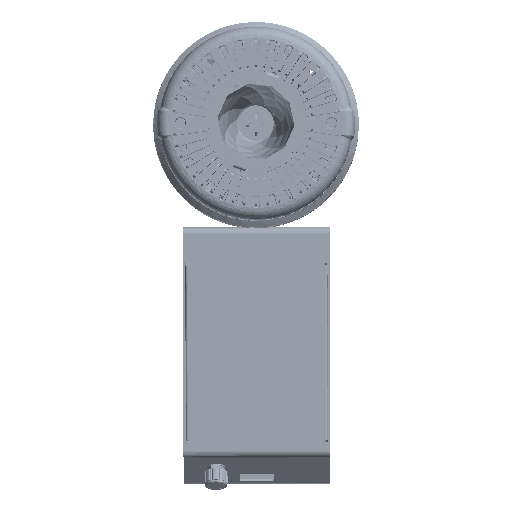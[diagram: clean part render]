
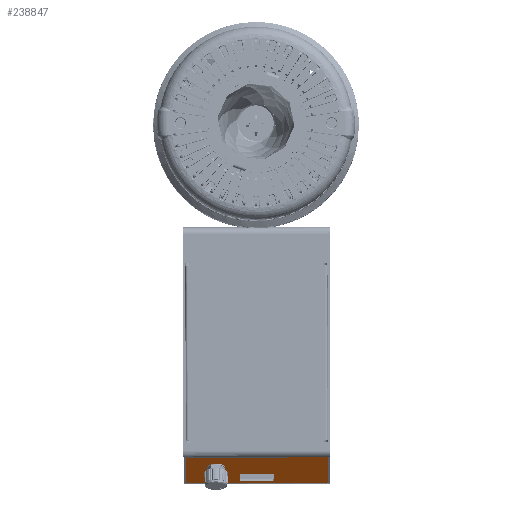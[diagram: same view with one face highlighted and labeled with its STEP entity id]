
A CAD part, front view. The second image highlights one B-rep face of the part: STEP entity #238847.
In plain terms, the highlighted planar face has unit normal (0.003, -0.364, -0.931) as drawn and (-0.94, -0.342, 0) by its records, which use the part's own axes.
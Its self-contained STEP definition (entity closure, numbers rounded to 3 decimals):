
#6362 = CIRCLE ( 'NONE', #24450, 1. ) ;
#8252 = ORIENTED_EDGE ( 'NONE', *, *, #117947, .T. ) ;
#8649 = VECTOR ( 'NONE', #57159, 1000. ) ;
#8776 = LINE ( 'NONE', #205303, #8649 ) ;
#11433 = VERTEX_POINT ( 'NONE', #267965 ) ;
#12683 = DIRECTION ( 'NONE',  ( 0.342, -0.94, 0. ) ) ;
#14753 = LINE ( 'NONE', #144438, #71570 ) ;
#14990 = CARTESIAN_POINT ( 'NONE',  ( -79.616, 38.053, 9.95 ) ) ;
#24145 = ORIENTED_EDGE ( 'NONE', *, *, #39913, .F. ) ;
#24450 = AXIS2_PLACEMENT_3D ( 'NONE', #147611, #235755, #194464 ) ;
#27126 = EDGE_CURVE ( 'NONE', #190738, #78263, #235698, .T. ) ;
#28341 = CARTESIAN_POINT ( 'NONE',  ( -79.274, 37.113, -10.95 ) ) ;
#34299 = DIRECTION ( 'NONE',  ( 0.342, -0.94, 0. ) ) ;
#35858 = EDGE_LOOP ( 'NONE', ( #254361, #112596 ) ) ;
#37367 = CARTESIAN_POINT ( 'NONE',  ( -80.487, 40.448, -46. ) ) ;
#39175 = DIRECTION ( 'NONE',  ( -0.342, 0.94, 0. ) ) ;
#39913 = EDGE_CURVE ( 'NONE', #180090, #78263, #112755, .T. ) ;
#40811 = CIRCLE ( 'NONE', #168132, 1. ) ;
#41181 = CARTESIAN_POINT ( 'NONE',  ( -72.365, 18.131, 26.5 ) ) ;
#43650 = VERTEX_POINT ( 'NONE', #46117 ) ;
#43677 = CARTESIAN_POINT ( 'NONE',  ( -79.616, 38.053, -10.95 ) ) ;
#46117 = CARTESIAN_POINT ( 'NONE',  ( -75.375, 26.401, 10.95 ) ) ;
#49353 = ORIENTED_EDGE ( 'NONE', *, *, #61721, .F. ) ;
#50835 = CARTESIAN_POINT ( 'NONE',  ( -79.616, 38.053, -9.95 ) ) ;
#51443 = CARTESIAN_POINT ( 'NONE',  ( -65.209, -1.528, 46. ) ) ;
#53944 = CARTESIAN_POINT ( 'NONE',  ( -70.997, 14.373, 26.5 ) ) ;
#57159 = DIRECTION ( 'NONE',  ( -0.342, 0.94, 0. ) ) ;
#57702 = CARTESIAN_POINT ( 'NONE',  ( -65.209, -1.528, 46. ) ) ;
#61721 = EDGE_CURVE ( 'NONE', #43650, #108770, #8776, .T. ) ;
#62073 = CARTESIAN_POINT ( 'NONE',  ( -75.375, 26.401, 9.95 ) ) ;
#62548 = AXIS2_PLACEMENT_3D ( 'NONE', #148888, #123325, #39175 ) ;
#65370 = CIRCLE ( 'NONE', #152450, 1. ) ;
#69928 = CARTESIAN_POINT ( 'NONE',  ( -65.209, -1.528, 46. ) ) ;
#70199 = VERTEX_POINT ( 'NONE', #273249 ) ;
#71570 = VECTOR ( 'NONE', #140238, 1000. ) ;
#73480 = DIRECTION ( 'NONE',  ( 0., 0., 1. ) ) ;
#74904 = LINE ( 'NONE', #160434, #180208 ) ;
#78263 = VERTEX_POINT ( 'NONE', #258432 ) ;
#78695 = AXIS2_PLACEMENT_3D ( 'NONE', #53944, #99493, #159400 ) ;
#78826 = ORIENTED_EDGE ( 'NONE', *, *, #172897, .T. ) ;
#79125 = PLANE ( 'NONE',  #62548 ) ;
#82217 = ORIENTED_EDGE ( 'NONE', *, *, #212961, .T. ) ;
#82567 = CARTESIAN_POINT ( 'NONE',  ( -75.032, 25.461, -9.95 ) ) ;
#83304 = FACE_OUTER_BOUND ( 'NONE', #256325, .T. ) ;
#83403 = EDGE_CURVE ( 'NONE', #144379, #226113, #74904, .T. ) ;
#90108 = ORIENTED_EDGE ( 'NONE', *, *, #109819, .F. ) ;
#91317 = DIRECTION ( 'NONE',  ( 0., 0., -1. ) ) ;
#97434 = CARTESIAN_POINT ( 'NONE',  ( -79.616, 38.053, -10.95 ) ) ;
#97497 = ORIENTED_EDGE ( 'NONE', *, *, #228153, .T. ) ;
#97682 = VERTEX_POINT ( 'NONE', #50835 ) ;
#99493 = DIRECTION ( 'NONE',  ( -0.94, -0.342, 0. ) ) ;
#100980 = CARTESIAN_POINT ( 'NONE',  ( -70.997, 14.373, 26.5 ) ) ;
#101093 = CIRCLE ( 'NONE', #137533, 1. ) ;
#101186 = CARTESIAN_POINT ( 'NONE',  ( -79.274, 37.113, -9.95 ) ) ;
#101472 = CIRCLE ( 'NONE', #78695, 4. ) ;
#103662 = EDGE_CURVE ( 'NONE', #11433, #120231, #101472, .T. ) ;
#105949 = VECTOR ( 'NONE', #209854, 1000. ) ;
#108242 = VECTOR ( 'NONE', #130586, 1000. ) ;
#108770 = VERTEX_POINT ( 'NONE', #122187 ) ;
#109819 = EDGE_CURVE ( 'NONE', #159558, #134804, #151965, .T. ) ;
#112596 = ORIENTED_EDGE ( 'NONE', *, *, #253502, .F. ) ;
#112755 = LINE ( 'NONE', #69928, #235830 ) ;
#116662 = ORIENTED_EDGE ( 'NONE', *, *, #27126, .T. ) ;
#117947 = EDGE_CURVE ( 'NONE', #43650, #226113, #65370, .T. ) ;
#120231 = VERTEX_POINT ( 'NONE', #41181 ) ;
#122187 = CARTESIAN_POINT ( 'NONE',  ( -79.274, 37.113, 10.95 ) ) ;
#123325 = DIRECTION ( 'NONE',  ( 0.94, 0.342, 0. ) ) ;
#127176 = ORIENTED_EDGE ( 'NONE', *, *, #167377, .T. ) ;
#128735 = VECTOR ( 'NONE', #237120, 1000. ) ;
#130586 = DIRECTION ( 'NONE',  ( 0.342, -0.94, 0. ) ) ;
#132173 = CARTESIAN_POINT ( 'NONE',  ( -79.274, 37.113, 9.95 ) ) ;
#132702 = EDGE_CURVE ( 'NONE', #70199, #180090, #229366, .T. ) ;
#134804 = VERTEX_POINT ( 'NONE', #148713 ) ;
#137533 = AXIS2_PLACEMENT_3D ( 'NONE', #132173, #218970, #216157 ) ;
#140238 = DIRECTION ( 'NONE',  ( 0., 0., -1. ) ) ;
#144379 = VERTEX_POINT ( 'NONE', #82567 ) ;
#144438 = CARTESIAN_POINT ( 'NONE',  ( -80.487, 40.448, 46. ) ) ;
#147611 = CARTESIAN_POINT ( 'NONE',  ( -75.375, 26.401, -9.95 ) ) ;
#147767 = VERTEX_POINT ( 'NONE', #14990 ) ;
#148713 = CARTESIAN_POINT ( 'NONE',  ( -75.375, 26.401, -10.95 ) ) ;
#148888 = CARTESIAN_POINT ( 'NONE',  ( -65.209, -1.528, 46. ) ) ;
#151965 = LINE ( 'NONE', #43677, #108242 ) ;
#152450 = AXIS2_PLACEMENT_3D ( 'NONE', #62073, #232997, #207468 ) ;
#159400 = DIRECTION ( 'NONE',  ( 0.342, -0.94, 0. ) ) ;
#159558 = VERTEX_POINT ( 'NONE', #28341 ) ;
#160434 = CARTESIAN_POINT ( 'NONE',  ( -75.032, 25.461, -10.95 ) ) ;
#166728 = DIRECTION ( 'NONE',  ( -0.342, 0.94, 0. ) ) ;
#167377 = EDGE_CURVE ( 'NONE', #144379, #134804, #6362, .T. ) ;
#168132 = AXIS2_PLACEMENT_3D ( 'NONE', #101186, #188045, #166728 ) ;
#172897 = EDGE_CURVE ( 'NONE', #159558, #97682, #40811, .T. ) ;
#180090 = VERTEX_POINT ( 'NONE', #57702 ) ;
#180208 = VECTOR ( 'NONE', #73480, 1000. ) ;
#187540 = EDGE_CURVE ( 'NONE', #147767, #97682, #268252, .T. ) ;
#188045 = DIRECTION ( 'NONE',  ( 0.94, 0.342, 0. ) ) ;
#190738 = VERTEX_POINT ( 'NONE', #37367 ) ;
#194363 = ORIENTED_EDGE ( 'NONE', *, *, #187540, .F. ) ;
#194464 = DIRECTION ( 'NONE',  ( -0.342, 0.94, 0. ) ) ;
#195418 = CIRCLE ( 'NONE', #277065, 4. ) ;
#205303 = CARTESIAN_POINT ( 'NONE',  ( -79.616, 38.053, 10.95 ) ) ;
#207468 = DIRECTION ( 'NONE',  ( -0.342, 0.94, 0. ) ) ;
#209854 = DIRECTION ( 'NONE',  ( 0., 0., -1. ) ) ;
#212961 = EDGE_CURVE ( 'NONE', #147767, #108770, #101093, .T. ) ;
#216157 = DIRECTION ( 'NONE',  ( -0.342, 0.94, 0. ) ) ;
#218970 = DIRECTION ( 'NONE',  ( 0.94, 0.342, 0. ) ) ;
#226113 = VERTEX_POINT ( 'NONE', #243433 ) ;
#228153 = EDGE_CURVE ( 'NONE', #70199, #190738, #14753, .T. ) ;
#229366 = LINE ( 'NONE', #51443, #254412 ) ;
#232997 = DIRECTION ( 'NONE',  ( 0.94, 0.342, 0. ) ) ;
#235698 = LINE ( 'NONE', #258443, #128735 ) ;
#235755 = DIRECTION ( 'NONE',  ( 0.94, 0.342, 0. ) ) ;
#235830 = VECTOR ( 'NONE', #91317, 1000. ) ;
#237120 = DIRECTION ( 'NONE',  ( 0.342, -0.94, 0. ) ) ;
#238847 = ADVANCED_FACE ( 'NONE', ( #278356, #275533, #83304 ), #79125, .F. ) ;
#243433 = CARTESIAN_POINT ( 'NONE',  ( -75.032, 25.461, 9.95 ) ) ;
#243738 = EDGE_LOOP ( 'NONE', ( #264044, #127176, #90108, #78826, #194363, #82217, #49353, #8252 ) ) ;
#251911 = DIRECTION ( 'NONE',  ( -0.94, -0.342, 0. ) ) ;
#252936 = ORIENTED_EDGE ( 'NONE', *, *, #132702, .F. ) ;
#253502 = EDGE_CURVE ( 'NONE', #120231, #11433, #195418, .T. ) ;
#254361 = ORIENTED_EDGE ( 'NONE', *, *, #103662, .F. ) ;
#254412 = VECTOR ( 'NONE', #34299, 1000. ) ;
#256325 = EDGE_LOOP ( 'NONE', ( #116662, #24145, #252936, #97497 ) ) ;
#258432 = CARTESIAN_POINT ( 'NONE',  ( -65.209, -1.528, -46. ) ) ;
#258443 = CARTESIAN_POINT ( 'NONE',  ( -65.209, -1.528, -46. ) ) ;
#264044 = ORIENTED_EDGE ( 'NONE', *, *, #83403, .F. ) ;
#267965 = CARTESIAN_POINT ( 'NONE',  ( -69.629, 10.614, 26.5 ) ) ;
#268252 = LINE ( 'NONE', #97434, #105949 ) ;
#273249 = CARTESIAN_POINT ( 'NONE',  ( -80.487, 40.448, 46. ) ) ;
#275533 = FACE_BOUND ( 'NONE', #243738, .T. ) ;
#277065 = AXIS2_PLACEMENT_3D ( 'NONE', #100980, #251911, #12683 ) ;
#278356 = FACE_BOUND ( 'NONE', #35858, .T. ) ;
